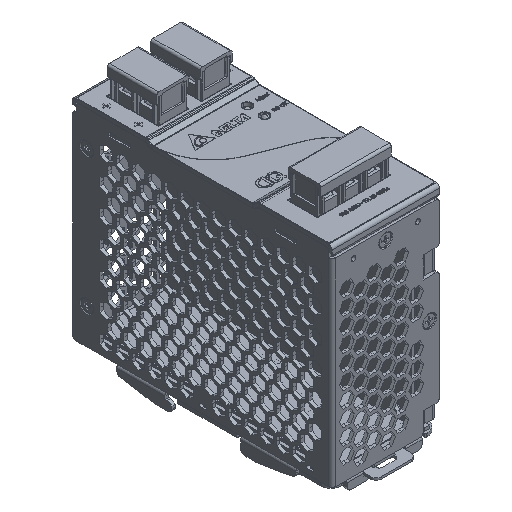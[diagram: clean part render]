
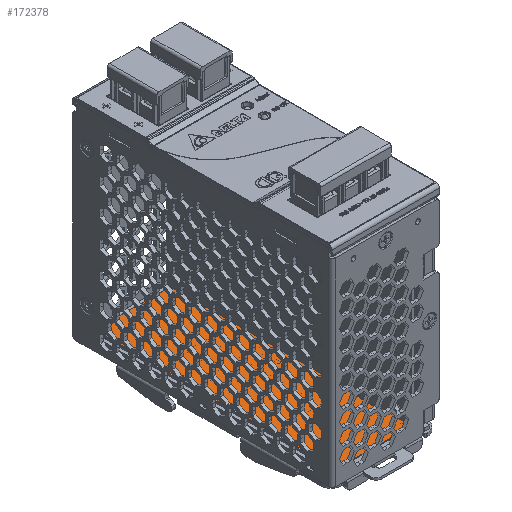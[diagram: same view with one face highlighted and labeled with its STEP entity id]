
A CAD part, isometric view. The second image highlights one B-rep face of the part: STEP entity #172378.
In plain terms, the highlighted planar face has unit normal (0, 0, 1).
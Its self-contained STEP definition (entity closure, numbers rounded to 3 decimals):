
#171679=DIRECTION('',(0.,1.,0.));
#171680=VECTOR('',#171679,44.14);
#171681=CARTESIAN_POINT('',(61.4,0.,-45.55));
#171682=LINE('',#171681,#171680);
#171686=DIRECTION('',(1.,0.,0.));
#171687=VECTOR('',#171686,112.5);
#171688=CARTESIAN_POINT('',(-51.1,0.,-45.55));
#171689=LINE('',#171688,#171687);
#171693=DIRECTION('',(0.,-1.,0.));
#171694=VECTOR('',#171693,44.14);
#171695=CARTESIAN_POINT('',(-51.1,44.14,-45.55));
#171696=LINE('',#171695,#171694);
#171700=DIRECTION('',(1.,0.,0.));
#171701=VECTOR('',#171700,12.);
#171702=CARTESIAN_POINT('',(-38.1,6.87,-45.55));
#171703=LINE('',#171702,#171701);
#171707=DIRECTION('',(0.,1.,0.));
#171708=VECTOR('',#171707,2.8);
#171709=CARTESIAN_POINT('',(-38.1,4.07,-45.55));
#171710=LINE('',#171709,#171708);
#171714=DIRECTION('',(-1.,0.,0.));
#171715=VECTOR('',#171714,12.);
#171716=CARTESIAN_POINT('',(-26.1,4.07,-45.55));
#171717=LINE('',#171716,#171715);
#171721=DIRECTION('',(0.,-1.,0.));
#171722=VECTOR('',#171721,2.8);
#171723=CARTESIAN_POINT('',(-26.1,6.87,-45.55));
#171724=LINE('',#171723,#171722);
#171728=DIRECTION('',(1.,0.,0.));
#171729=VECTOR('',#171728,12.);
#171730=CARTESIAN_POINT('',(44.9,6.87,-45.55));
#171731=LINE('',#171730,#171729);
#171735=DIRECTION('',(0.,1.,0.));
#171736=VECTOR('',#171735,2.8);
#171737=CARTESIAN_POINT('',(44.9,4.07,-45.55));
#171738=LINE('',#171737,#171736);
#171742=DIRECTION('',(-1.,0.,0.));
#171743=VECTOR('',#171742,12.);
#171744=CARTESIAN_POINT('',(56.9,4.07,-45.55));
#171745=LINE('',#171744,#171743);
#171749=DIRECTION('',(0.,-1.,0.));
#171750=VECTOR('',#171749,2.8);
#171751=CARTESIAN_POINT('',(56.9,6.87,-45.55));
#171752=LINE('',#171751,#171750);
#171756=DIRECTION('',(1.,0.,0.));
#171757=VECTOR('',#171756,112.5);
#171758=CARTESIAN_POINT('',(-51.1,44.14,-45.55));
#171759=LINE('',#171758,#171757);
#172247=CARTESIAN_POINT('',(-51.1,0.,-45.55));
#172249=VERTEX_POINT('',#172247);
#172261=CARTESIAN_POINT('',(61.4,0.,-45.55));
#172262=VERTEX_POINT('',#172261);
#172295=CARTESIAN_POINT('',(61.4,44.14,-45.55));
#172297=VERTEX_POINT('',#172295);
#172301=CARTESIAN_POINT('',(-51.1,44.14,-45.55));
#172302=VERTEX_POINT('',#172301);
#172311=CARTESIAN_POINT('',(-38.1,6.87,-45.55));
#172312=CARTESIAN_POINT('',(-26.1,6.87,-45.55));
#172313=VERTEX_POINT('',#172311);
#172314=VERTEX_POINT('',#172312);
#172315=CARTESIAN_POINT('',(-26.1,4.07,-45.55));
#172316=VERTEX_POINT('',#172315);
#172317=CARTESIAN_POINT('',(-38.1,4.07,-45.55));
#172318=VERTEX_POINT('',#172317);
#172319=CARTESIAN_POINT('',(44.9,6.87,-45.55));
#172320=CARTESIAN_POINT('',(56.9,6.87,-45.55));
#172321=VERTEX_POINT('',#172319);
#172322=VERTEX_POINT('',#172320);
#172323=CARTESIAN_POINT('',(56.9,4.07,-45.55));
#172324=VERTEX_POINT('',#172323);
#172325=CARTESIAN_POINT('',(44.9,4.07,-45.55));
#172326=VERTEX_POINT('',#172325);
#172343=CARTESIAN_POINT('',(61.4,-0.43,-45.55));
#172344=DIRECTION('',(0.,0.,1.));
#172345=DIRECTION('',(1.,0.,0.));
#172346=AXIS2_PLACEMENT_3D('',#172343,#172344,#172345);
#172347=PLANE('',#172346);
#172349=ORIENTED_EDGE('',*,*,#172348,.T.);
#172351=ORIENTED_EDGE('',*,*,#172350,.F.);
#172353=ORIENTED_EDGE('',*,*,#172352,.F.);
#172355=ORIENTED_EDGE('',*,*,#172354,.F.);
#172356=EDGE_LOOP('',(#172349,#172351,#172353,#172355));
#172357=FACE_OUTER_BOUND('',#172356,.F.);
#172359=ORIENTED_EDGE('',*,*,#172358,.F.);
#172361=ORIENTED_EDGE('',*,*,#172360,.F.);
#172363=ORIENTED_EDGE('',*,*,#172362,.F.);
#172365=ORIENTED_EDGE('',*,*,#172364,.F.);
#172366=EDGE_LOOP('',(#172359,#172361,#172363,#172365));
#172367=FACE_BOUND('',#172366,.F.);
#172369=ORIENTED_EDGE('',*,*,#172368,.F.);
#172371=ORIENTED_EDGE('',*,*,#172370,.F.);
#172373=ORIENTED_EDGE('',*,*,#172372,.F.);
#172375=ORIENTED_EDGE('',*,*,#172374,.F.);
#172376=EDGE_LOOP('',(#172369,#172371,#172373,#172375));
#172377=FACE_BOUND('',#172376,.F.);
#172348=EDGE_CURVE('',#172302,#172297,#171759,.T.);
#172350=EDGE_CURVE('',#172262,#172297,#171682,.T.);
#172352=EDGE_CURVE('',#172249,#172262,#171689,.T.);
#172354=EDGE_CURVE('',#172302,#172249,#171696,.T.);
#172358=EDGE_CURVE('',#172313,#172314,#171703,.T.);
#172360=EDGE_CURVE('',#172318,#172313,#171710,.T.);
#172362=EDGE_CURVE('',#172316,#172318,#171717,.T.);
#172364=EDGE_CURVE('',#172314,#172316,#171724,.T.);
#172368=EDGE_CURVE('',#172321,#172322,#171731,.T.);
#172370=EDGE_CURVE('',#172326,#172321,#171738,.T.);
#172372=EDGE_CURVE('',#172324,#172326,#171745,.T.);
#172374=EDGE_CURVE('',#172322,#172324,#171752,.T.);
#172378=ADVANCED_FACE('',(#172357,#172367,#172377),#172347,.T.);
